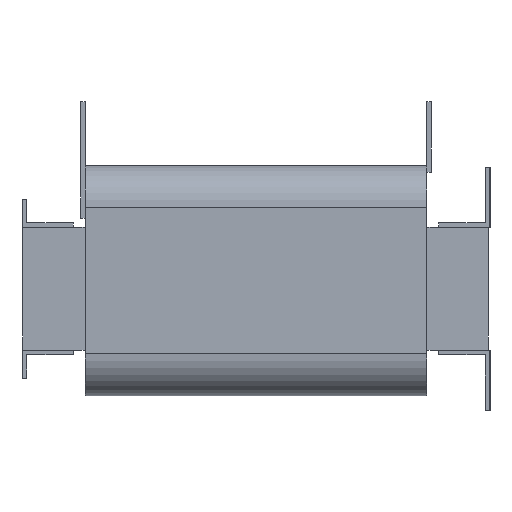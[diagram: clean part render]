
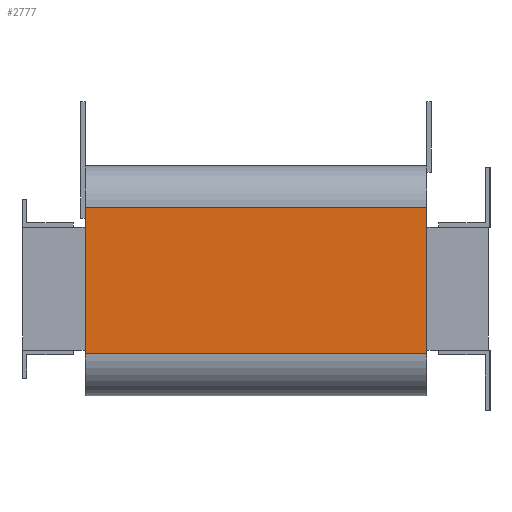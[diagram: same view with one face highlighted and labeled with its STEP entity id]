
A CAD part, left-side view. The second image highlights one B-rep face of the part: STEP entity #2777.
In plain terms, the highlighted planar face has unit normal (-1, 0, 0).
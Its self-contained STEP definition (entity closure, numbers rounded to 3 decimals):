
#126=PLANE('',#2999);
#261=FACE_OUTER_BOUND('',#429,.T.);
#429=EDGE_LOOP('',(#2389,#2390,#2391,#2392));
#712=LINE('',#4376,#1044);
#731=LINE('',#4426,#1063);
#732=LINE('',#4429,#1064);
#733=LINE('',#4430,#1065);
#1044=VECTOR('',#3581,10.);
#1063=VECTOR('',#3626,10.);
#1064=VECTOR('',#3629,10.);
#1065=VECTOR('',#3630,10.);
#1397=VERTEX_POINT('',#4373);
#1398=VERTEX_POINT('',#4375);
#1416=VERTEX_POINT('',#4424);
#1417=VERTEX_POINT('',#4428);
#1742=EDGE_CURVE('',#1397,#1398,#712,.T.);
#1768=EDGE_CURVE('',#1416,#1397,#731,.T.);
#1769=EDGE_CURVE('',#1416,#1417,#732,.T.);
#1770=EDGE_CURVE('',#1398,#1417,#733,.T.);
#2389=ORIENTED_EDGE('',*,*,#1768,.F.);
#2390=ORIENTED_EDGE('',*,*,#1769,.T.);
#2391=ORIENTED_EDGE('',*,*,#1770,.F.);
#2392=ORIENTED_EDGE('',*,*,#1742,.F.);
#2777=ADVANCED_FACE('',(#261),#126,.T.);
#2999=AXIS2_PLACEMENT_3D('',#4427,#3627,#3628);
#3581=DIRECTION('',(0.,0.,1.));
#3626=DIRECTION('',(0.,1.,0.));
#3627=DIRECTION('center_axis',(-1.,0.,0.));
#3628=DIRECTION('ref_axis',(0.,0.,1.));
#3629=DIRECTION('',(0.,0.,1.));
#3630=DIRECTION('',(0.,-1.,0.));
#4373=CARTESIAN_POINT('',(-264.,432.5,-69.5));
#4375=CARTESIAN_POINT('',(-264.,432.5,86.5));
#4376=CARTESIAN_POINT('',(-264.,432.5,-114.5));
#4424=CARTESIAN_POINT('',(-264.,67.5,-69.5));
#4426=CARTESIAN_POINT('',(-264.,67.5,-69.5));
#4427=CARTESIAN_POINT('Origin',(-264.,67.5,-114.5));
#4428=CARTESIAN_POINT('',(-264.,67.5,86.5));
#4429=CARTESIAN_POINT('',(-264.,67.5,-114.5));
#4430=CARTESIAN_POINT('',(-264.,67.5,86.5));
